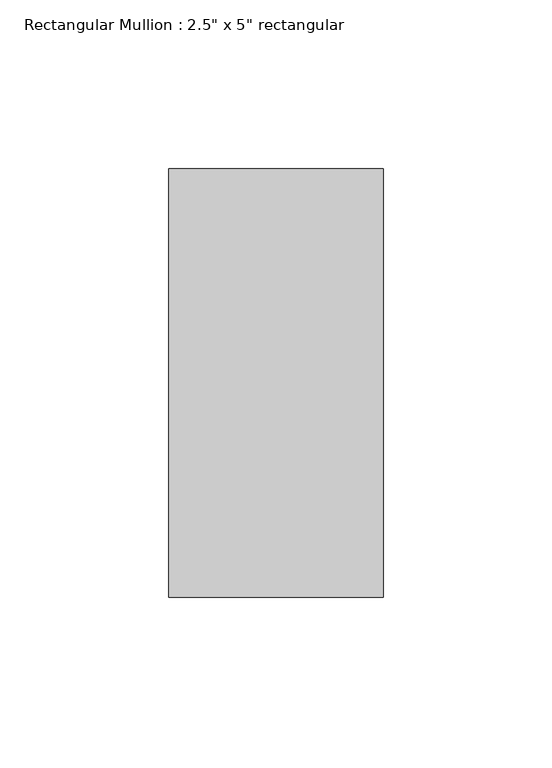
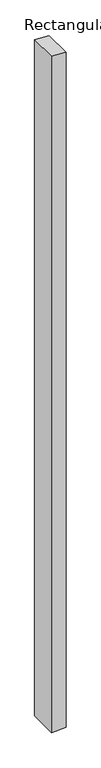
"""IFC4 building model written with IfcOpenShell, lengths in millimetres: member geometry."""

from ifc_helpers import new_model, si_unit, frame, origin, place, context, project, spatial, polyline, outline, extrude, source, transform, mapped, element, save


def member_d3fc6e22(model_context):
    return source(origin(), model_context, "Body", "SweptSolid", [
        extrude(outline(polyline([(0.0, 0.0), (2.8246822, -63.5), (-3118.5529284, -63.5), (-3116.6847154, 0.0), (0.0, 0.0)])), frame((0.0, -63.5, 0.0), z_axis=(0.0, 1.0, 0.0), x_axis=(0.0, 0.0, 1.0)), (0.0, 0.0, 1.0), 127.0),
    ])


if __name__ == "__main__":
    model = new_model("IFC4")
    model_context = context("Model", 3, world=origin())
    ifc_project = project(units=[si_unit("LENGTHUNIT", "METRE", prefix="MILLI")], contexts=[model_context])
    site = spatial("IfcSite", under=ifc_project)
    building = spatial("IfcBuilding", under=site)
    placement = place(None, origin())
    member_shape = member_d3fc6e22(model_context)
    element("IfcMember", 1, ObjectType="Rectangular Mullion : 2.5\" x 5\" rectangular", at=placement, inside=building, context=model_context, shape_type="MappedRepresentation", body=[
        mapped(member_shape, transform((0.0, 0.0, 0.0), x_axis=(1.0, 0.0, 0.0), y_axis=(0.0, 1.0, 0.0), z_axis=(0.0, 0.0, 1.0))),
    ])
    save(model, "model.ifc")
